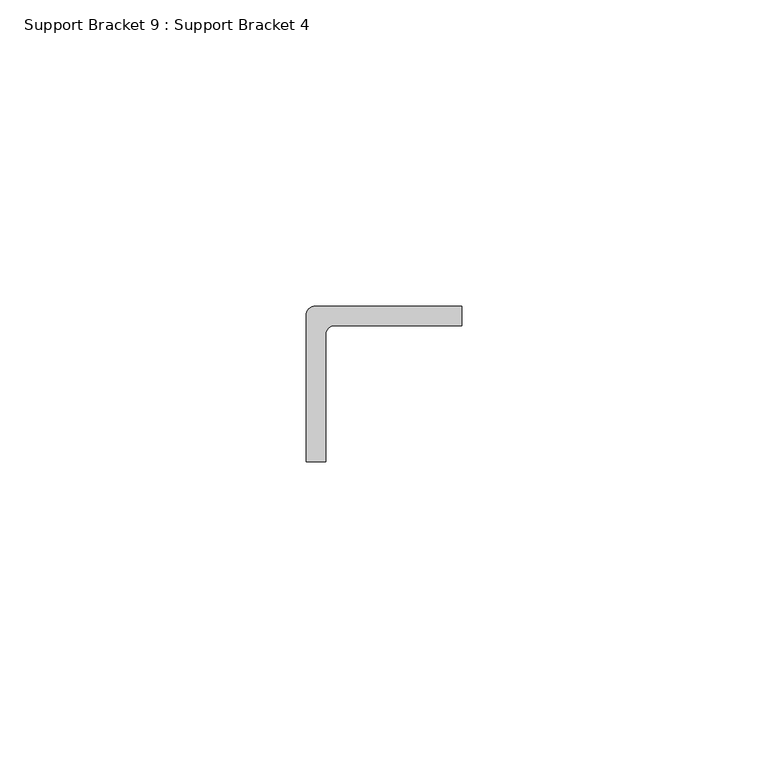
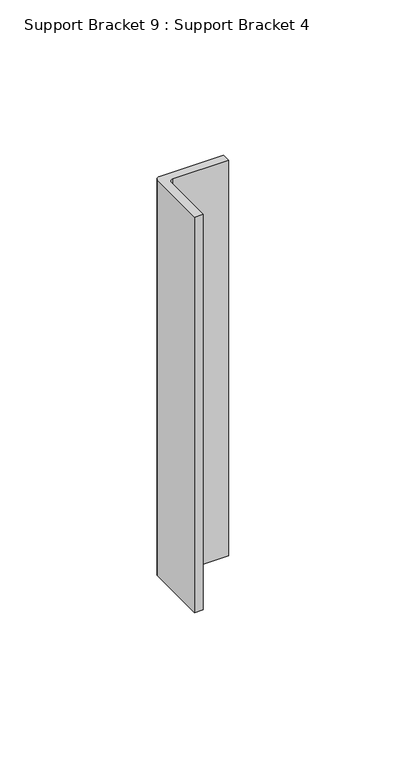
"""IFC4 building model written with IfcOpenShell, lengths in millimetres: proxy geometry, Support Bracket 9 : Support Bracket 4."""

from ifc_helpers import new_model, si_unit, point, frame, frame_2d, origin, place, context, project, spatial, polyline, circle_curve, trimmed, segment, composite_curve, outline, extrude, source, transform, mapped, element, save


def support_bracket_9_support_bracket_4_35a73b24(model_context):
    return source(origin(), model_context, "Body", "SweptSolid", [
        extrude(outline(composite_curve([segment(trimmed(circle_curve(frame_2d((15418.7430248, 4722.7992196)), 1.524), [point((15417.2190248, 4722.7992196))], [point((15418.7430248, 4724.3232196))], False, "CARTESIAN"), True, "CONTINUOUS"), segment(polyline([(15418.7430248, 4724.3232196), (15442.6190248, 4724.3232196), (15442.6190248, 4721.1482196), (15421.9180248, 4721.1482196)]), True, "CONTINUOUS"), segment(trimmed(circle_curve(frame_2d((15421.9180248, 4719.6242196)), 1.524), [point((15421.9180248, 4721.1482196))], [point((15420.3940248, 4719.6242196))], True, "CARTESIAN"), True, "CONTINUOUS"), segment(polyline([(15420.3940248, 4719.6242196), (15420.3940248, 4698.9232196), (15417.2190248, 4698.9232196), (15417.2190248, 4722.7992196)]), True, "CONTINUOUS")], self_intersect=False)), frame((0.0, 0.0, 1014.7101563), z_axis=(0.0, 0.0, 1.0), x_axis=(1.0, 0.0, 0.0)), (0.0, 0.0, 1.0), 155.3941284),
    ])


if __name__ == "__main__":
    model = new_model("IFC4")
    model_context = context("Model", 3, world=origin())
    ifc_project = project(units=[si_unit("LENGTHUNIT", "METRE", prefix="MILLI")], contexts=[model_context])
    site = spatial("IfcSite", under=ifc_project)
    building = spatial("IfcBuilding", under=site)
    placement = place(None, origin())
    support_bracket_9_support_bracket_4_shape = support_bracket_9_support_bracket_4_35a73b24(model_context)
    element("IfcBuildingElementProxy", 1, Name="Support Bracket 9 : Support Bracket 4", ObjectType="Support Bracket 9 : Support Bracket 4", at=placement, inside=building, context=model_context, shape_type="MappedRepresentation", body=[
        mapped(support_bracket_9_support_bracket_4_shape, transform((0.0, 0.0, 0.0), x_axis=(1.0, 0.0, 0.0), y_axis=(0.0, 1.0, 0.0), z_axis=(0.0, 0.0, 1.0))),
    ])
    save(model, "model.ifc")
